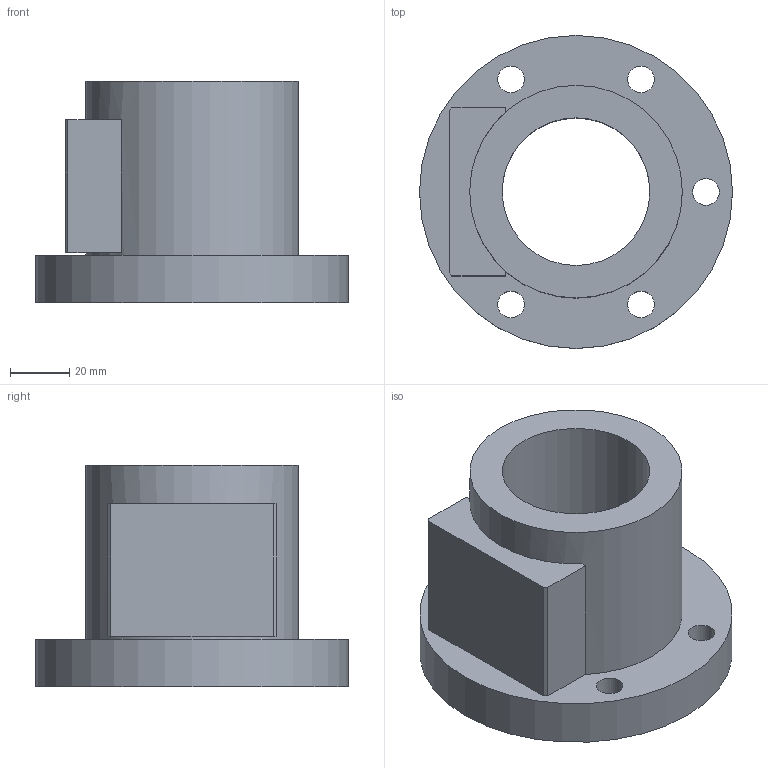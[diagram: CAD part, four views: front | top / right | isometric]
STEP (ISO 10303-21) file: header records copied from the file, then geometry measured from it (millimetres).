
FILE_DESCRIPTION(/* description */ (''),/* implementation_level */ '2;1');
FILE_NAME(/* name */ '50-6B2',/* time_stamp */ '2006-07-31T11:49:54+08:00',/* author */ (''),/* organization */ (''),/* preprocessor_version */ 'ST-DEVELOPER v9',/* originating_system */ 'UGS - NX 4.0',/* authorisation */ '');
FILE_SCHEMA (('CONFIG_CONTROL_DESIGN'));
Length unit declared in the file: millimetre
Products named in the file (1): 50-6B2
Bounding box: 106 x 106 x 75 mm (x, y, z)
Volume: 253842.6 mm3; surface area: 49389.6 mm2
Topology: 1 solids, 1 shells, 30 faces, 67 edges, 46 vertices
Faces by surface type: plane 17, cylinder 13
Full cylindrical faces by diameter (mm): 9 x5, 14 x5, 50 x1, 72 x1, 106 x1
Entity records: 860 total; most frequent: DIRECTION 140, CARTESIAN_POINT 123, ORIENTED_EDGE 100, EDGE_LOOP 62, AXIS2_PLACEMENT_3D 59, EDGE_CURVE 50, FACE_BOUND 45, VERTEX_POINT 42
